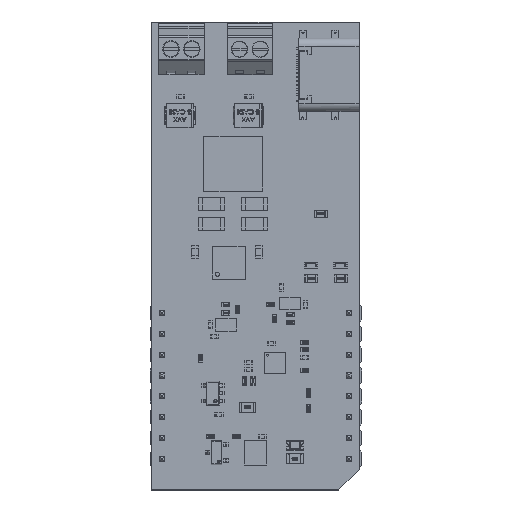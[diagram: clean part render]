
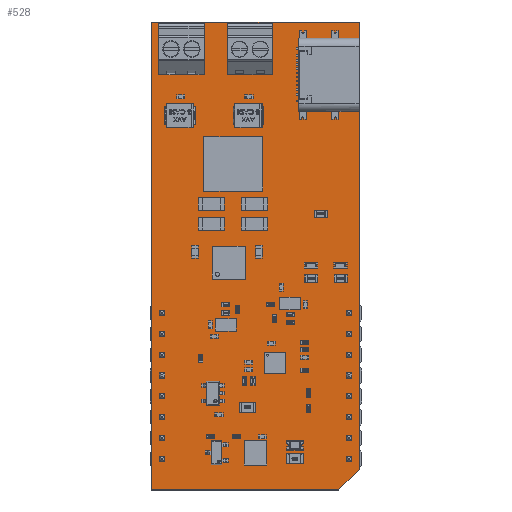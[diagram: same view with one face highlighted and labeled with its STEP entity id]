
A CAD part, top view. The second image highlights one B-rep face of the part: STEP entity #528.
In plain terms, the highlighted planar face has unit normal (0, 0, 1).
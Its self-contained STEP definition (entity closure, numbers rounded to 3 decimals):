
#367 = VERTEX_POINT('',#368);
#368 = CARTESIAN_POINT('',(-1.27,-3.81,0.));
#374 = EDGE_CURVE('',#367,#375,#377,.T.);
#375 = VERTEX_POINT('',#376);
#376 = CARTESIAN_POINT('',(-1.27,53.34,0.));
#377 = LINE('',#378,#379);
#378 = CARTESIAN_POINT('',(-1.27,-3.81,0.));
#379 = VECTOR('',#380,1.);
#380 = DIRECTION('',(0.,1.,0.));
#405 = EDGE_CURVE('',#375,#406,#408,.T.);
#406 = VERTEX_POINT('',#407);
#407 = CARTESIAN_POINT('',(24.13,53.34,0.));
#408 = LINE('',#409,#410);
#409 = CARTESIAN_POINT('',(-1.27,53.34,0.));
#410 = VECTOR('',#411,1.);
#411 = DIRECTION('',(1.,0.,0.));
#436 = EDGE_CURVE('',#406,#437,#439,.T.);
#437 = VERTEX_POINT('',#438);
#438 = CARTESIAN_POINT('',(24.13,-1.27,0.));
#439 = LINE('',#440,#441);
#440 = CARTESIAN_POINT('',(24.13,53.34,0.));
#441 = VECTOR('',#442,1.);
#442 = DIRECTION('',(0.,-1.,0.));
#467 = EDGE_CURVE('',#437,#468,#470,.T.);
#468 = VERTEX_POINT('',#469);
#469 = CARTESIAN_POINT('',(21.59,-3.81,0.));
#470 = LINE('',#471,#472);
#471 = CARTESIAN_POINT('',(24.13,-1.27,0.));
#472 = VECTOR('',#473,1.);
#473 = DIRECTION('',(-0.707,-0.707,0.));
#498 = EDGE_CURVE('',#468,#367,#499,.T.);
#499 = LINE('',#500,#501);
#500 = CARTESIAN_POINT('',(21.59,-3.81,0.));
#501 = VECTOR('',#502,1.);
#502 = DIRECTION('',(-1.,0.,0.));
#528 = ADVANCED_FACE('',(#529),#536,.T.);
#529 = FACE_BOUND('',#530,.F.);
#530 = EDGE_LOOP('',(#531,#532,#533,#534,#535));
#531 = ORIENTED_EDGE('',*,*,#374,.T.);
#532 = ORIENTED_EDGE('',*,*,#405,.T.);
#533 = ORIENTED_EDGE('',*,*,#436,.T.);
#534 = ORIENTED_EDGE('',*,*,#467,.T.);
#535 = ORIENTED_EDGE('',*,*,#498,.T.);
#536 = PLANE('',#537);
#537 = AXIS2_PLACEMENT_3D('',#538,#539,#540);
#538 = CARTESIAN_POINT('',(-1.27,-3.81,0.));
#539 = DIRECTION('',(0.,0.,1.));
#540 = DIRECTION('',(1.,0.,0.));
